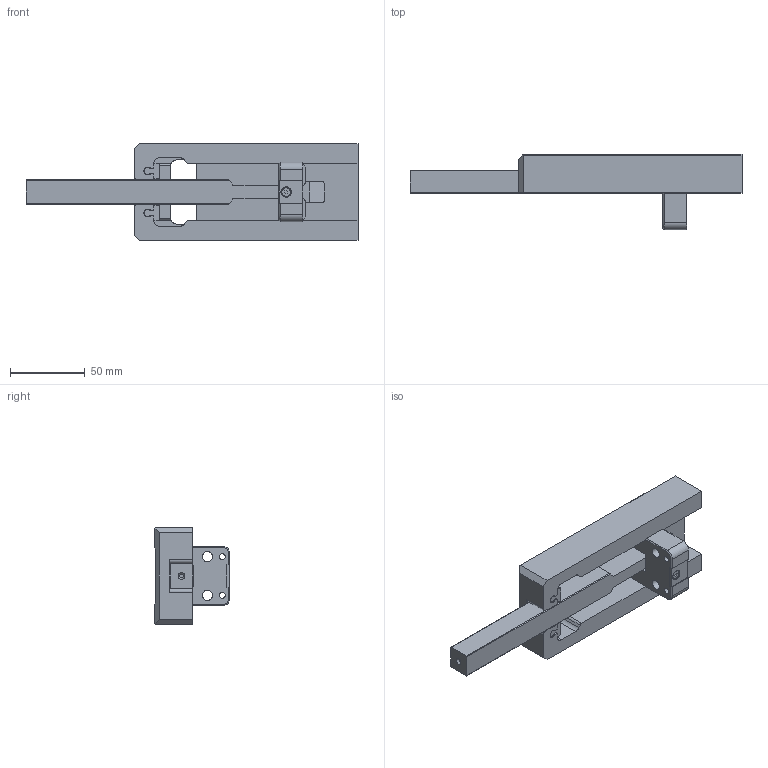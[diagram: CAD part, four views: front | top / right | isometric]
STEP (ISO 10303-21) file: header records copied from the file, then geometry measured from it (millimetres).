
FILE_DESCRIPTION (( 'STEP AP203' ), '1' );
FILE_NAME ('SA-80-150-32.step', '2015-06-16T05:09:51', ( '' ), ( '' ), 'SwSTEP 2.0', 'SolidWorks 2015', '' );
FILE_SCHEMA (( 'CONFIG_CONTROL_DESIGN' ));
Length unit declared in the file: millimetre
Products named in the file (2): SA-80-150-32
Bounding box: 222.66 x 50.7 x 65 mm (x, y, z)
Surface area: 52792.5 mm2 (no closed solid volume)
Topology: 0 solids, 9 shells, 137 faces, 488 edges, 350 vertices
Faces by surface type: plane 98, cylinder 31, cone 8
Full cylindrical faces by diameter (mm): 1.3 x2, 2.5 x1, 4 x2, 4.6 x2, 5.7 x1, 6.8 x2
Entity records: 5267 total; most frequent: CARTESIAN_POINT 995, DIRECTION 837, ORIENTED_EDGE 781, EDGE_CURVE 472, VECTOR 361, LINE 361, VERTEX_POINT 348, AXIS2_PLACEMENT_3D 238
